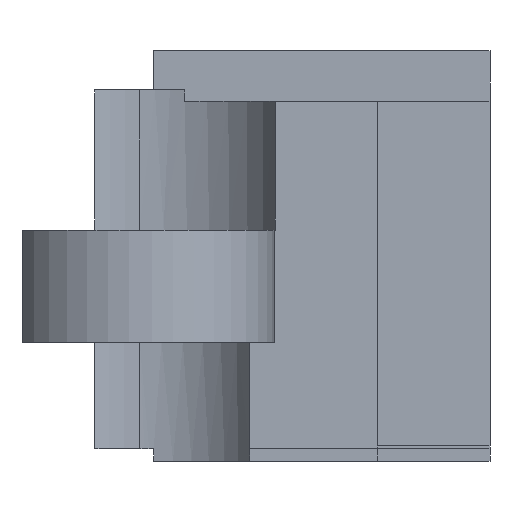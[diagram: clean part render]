
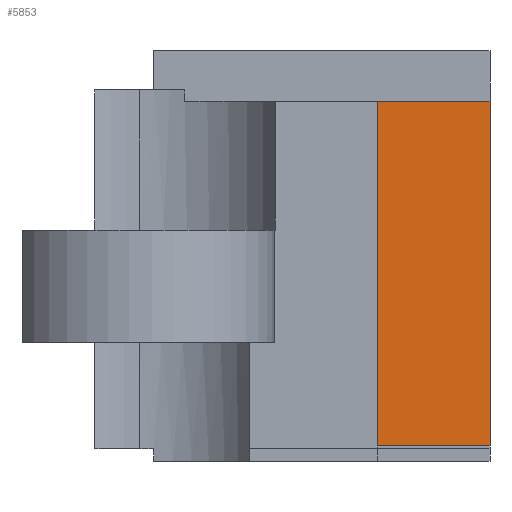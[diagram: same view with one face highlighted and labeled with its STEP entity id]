
A CAD part, left-side view. The second image highlights one B-rep face of the part: STEP entity #5853.
In plain terms, the highlighted planar face has unit normal (-1, 0, 0).
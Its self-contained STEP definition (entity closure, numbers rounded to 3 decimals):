
#3020 = PLANE('',#3021);
#3021 = AXIS2_PLACEMENT_3D('',#3022,#3023,#3024);
#3022 = CARTESIAN_POINT('',(16.8,-12.3,-10.4));
#3023 = DIRECTION('',(1.,0.,-0.));
#3024 = DIRECTION('',(0.,0.,1.));
#4084 = PLANE('',#4085);
#4085 = AXIS2_PLACEMENT_3D('',#4086,#4087,#4088);
#4086 = CARTESIAN_POINT('',(16.8,-12.3,-10.4));
#4087 = DIRECTION('',(1.,0.,-0.));
#4088 = DIRECTION('',(0.,0.,1.));
#4100 = VERTEX_POINT('',#4101);
#4101 = CARTESIAN_POINT('',(16.8,-10.3,-10.35));
#4255 = VERTEX_POINT('',#4256);
#4256 = CARTESIAN_POINT('',(16.8,-10.3,-4.2));
#4282 = EDGE_CURVE('',#4100,#4255,#4283,.T.);
#4283 = SURFACE_CURVE('',#4284,(#4288,#4295),.PCURVE_S1.);
#4284 = LINE('',#4285,#4286);
#4285 = CARTESIAN_POINT('',(16.8,-10.3,-10.4));
#4286 = VECTOR('',#4287,1.);
#4287 = DIRECTION('',(0.,0.,1.));
#4288 = PCURVE('',#3020,#4289);
#4289 = DEFINITIONAL_REPRESENTATION('',(#4290),#4294);
#4290 = LINE('',#4291,#4292);
#4291 = CARTESIAN_POINT('',(0.,-2.));
#4292 = VECTOR('',#4293,1.);
#4293 = DIRECTION('',(1.,0.));
#4294 = ( GEOMETRIC_REPRESENTATION_CONTEXT(2) 
PARAMETRIC_REPRESENTATION_CONTEXT() REPRESENTATION_CONTEXT('2D SPACE',''
  ) );
#4295 = PCURVE('',#4296,#4301);
#4296 = PLANE('',#4297);
#4297 = AXIS2_PLACEMENT_3D('',#4298,#4299,#4300);
#4298 = CARTESIAN_POINT('',(16.8,-12.3,-10.4));
#4299 = DIRECTION('',(1.,0.,-0.));
#4300 = DIRECTION('',(0.,0.,1.));
#4301 = DEFINITIONAL_REPRESENTATION('',(#4302),#4306);
#4302 = LINE('',#4303,#4304);
#4303 = CARTESIAN_POINT('',(0.,-2.));
#4304 = VECTOR('',#4305,1.);
#4305 = DIRECTION('',(1.,0.));
#4306 = ( GEOMETRIC_REPRESENTATION_CONTEXT(2) 
PARAMETRIC_REPRESENTATION_CONTEXT() REPRESENTATION_CONTEXT('2D SPACE',''
  ) );
#5371 = PLANE('',#5372);
#5372 = AXIS2_PLACEMENT_3D('',#5373,#5374,#5375);
#5373 = CARTESIAN_POINT('',(16.8,-12.3,-10.4));
#5374 = DIRECTION('',(-0.,1.,0.));
#5375 = DIRECTION('',(0.,0.,1.));
#5783 = VERTEX_POINT('',#5784);
#5784 = CARTESIAN_POINT('',(16.8,-12.3,-10.35));
#5833 = EDGE_CURVE('',#5783,#4100,#5834,.T.);
#5834 = SURFACE_CURVE('',#5835,(#5839,#5846),.PCURVE_S1.);
#5835 = LINE('',#5836,#5837);
#5836 = CARTESIAN_POINT('',(16.8,-12.3,-10.35));
#5837 = VECTOR('',#5838,1.);
#5838 = DIRECTION('',(-0.,1.,0.));
#5839 = PCURVE('',#4084,#5840);
#5840 = DEFINITIONAL_REPRESENTATION('',(#5841),#5845);
#5841 = LINE('',#5842,#5843);
#5842 = CARTESIAN_POINT('',(0.05,0.));
#5843 = VECTOR('',#5844,1.);
#5844 = DIRECTION('',(0.,-1.));
#5845 = ( GEOMETRIC_REPRESENTATION_CONTEXT(2) 
PARAMETRIC_REPRESENTATION_CONTEXT() REPRESENTATION_CONTEXT('2D SPACE',''
  ) );
#5846 = PCURVE('',#4296,#5847);
#5847 = DEFINITIONAL_REPRESENTATION('',(#5848),#5852);
#5848 = LINE('',#5849,#5850);
#5849 = CARTESIAN_POINT('',(0.05,0.));
#5850 = VECTOR('',#5851,1.);
#5851 = DIRECTION('',(0.,-1.));
#5852 = ( GEOMETRIC_REPRESENTATION_CONTEXT(2) 
PARAMETRIC_REPRESENTATION_CONTEXT() REPRESENTATION_CONTEXT('2D SPACE',''
  ) );
#5853 = ADVANCED_FACE('',(#5854),#4296,.F.);
#5854 = FACE_BOUND('',#5855,.F.);
#5855 = EDGE_LOOP('',(#5856,#5879,#5880,#5881));
#5856 = ORIENTED_EDGE('',*,*,#5857,.F.);
#5857 = EDGE_CURVE('',#5783,#5858,#5860,.T.);
#5858 = VERTEX_POINT('',#5859);
#5859 = CARTESIAN_POINT('',(16.8,-12.3,-4.2));
#5860 = SURFACE_CURVE('',#5861,(#5865,#5872),.PCURVE_S1.);
#5861 = LINE('',#5862,#5863);
#5862 = CARTESIAN_POINT('',(16.8,-12.3,-10.4));
#5863 = VECTOR('',#5864,1.);
#5864 = DIRECTION('',(0.,0.,1.));
#5865 = PCURVE('',#4296,#5866);
#5866 = DEFINITIONAL_REPRESENTATION('',(#5867),#5871);
#5867 = LINE('',#5868,#5869);
#5868 = CARTESIAN_POINT('',(0.,0.));
#5869 = VECTOR('',#5870,1.);
#5870 = DIRECTION('',(1.,0.));
#5871 = ( GEOMETRIC_REPRESENTATION_CONTEXT(2) 
PARAMETRIC_REPRESENTATION_CONTEXT() REPRESENTATION_CONTEXT('2D SPACE',''
  ) );
#5872 = PCURVE('',#5371,#5873);
#5873 = DEFINITIONAL_REPRESENTATION('',(#5874),#5878);
#5874 = LINE('',#5875,#5876);
#5875 = CARTESIAN_POINT('',(0.,0.));
#5876 = VECTOR('',#5877,1.);
#5877 = DIRECTION('',(1.,0.));
#5878 = ( GEOMETRIC_REPRESENTATION_CONTEXT(2) 
PARAMETRIC_REPRESENTATION_CONTEXT() REPRESENTATION_CONTEXT('2D SPACE',''
  ) );
#5879 = ORIENTED_EDGE('',*,*,#5833,.T.);
#5880 = ORIENTED_EDGE('',*,*,#4282,.T.);
#5881 = ORIENTED_EDGE('',*,*,#5882,.F.);
#5882 = EDGE_CURVE('',#5858,#4255,#5883,.T.);
#5883 = SURFACE_CURVE('',#5884,(#5888,#5895),.PCURVE_S1.);
#5884 = LINE('',#5885,#5886);
#5885 = CARTESIAN_POINT('',(16.8,-12.3,-4.2));
#5886 = VECTOR('',#5887,1.);
#5887 = DIRECTION('',(-0.,1.,0.));
#5888 = PCURVE('',#4296,#5889);
#5889 = DEFINITIONAL_REPRESENTATION('',(#5890),#5894);
#5890 = LINE('',#5891,#5892);
#5891 = CARTESIAN_POINT('',(6.2,0.));
#5892 = VECTOR('',#5893,1.);
#5893 = DIRECTION('',(0.,-1.));
#5894 = ( GEOMETRIC_REPRESENTATION_CONTEXT(2) 
PARAMETRIC_REPRESENTATION_CONTEXT() REPRESENTATION_CONTEXT('2D SPACE',''
  ) );
#5895 = PCURVE('',#5896,#5901);
#5896 = PLANE('',#5897);
#5897 = AXIS2_PLACEMENT_3D('',#5898,#5899,#5900);
#5898 = CARTESIAN_POINT('',(16.8,-12.3,-4.2));
#5899 = DIRECTION('',(0.,0.,1.));
#5900 = DIRECTION('',(1.,0.,-0.));
#5901 = DEFINITIONAL_REPRESENTATION('',(#5902),#5906);
#5902 = LINE('',#5903,#5904);
#5903 = CARTESIAN_POINT('',(0.,0.));
#5904 = VECTOR('',#5905,1.);
#5905 = DIRECTION('',(0.,1.));
#5906 = ( GEOMETRIC_REPRESENTATION_CONTEXT(2) 
PARAMETRIC_REPRESENTATION_CONTEXT() REPRESENTATION_CONTEXT('2D SPACE',''
  ) );
